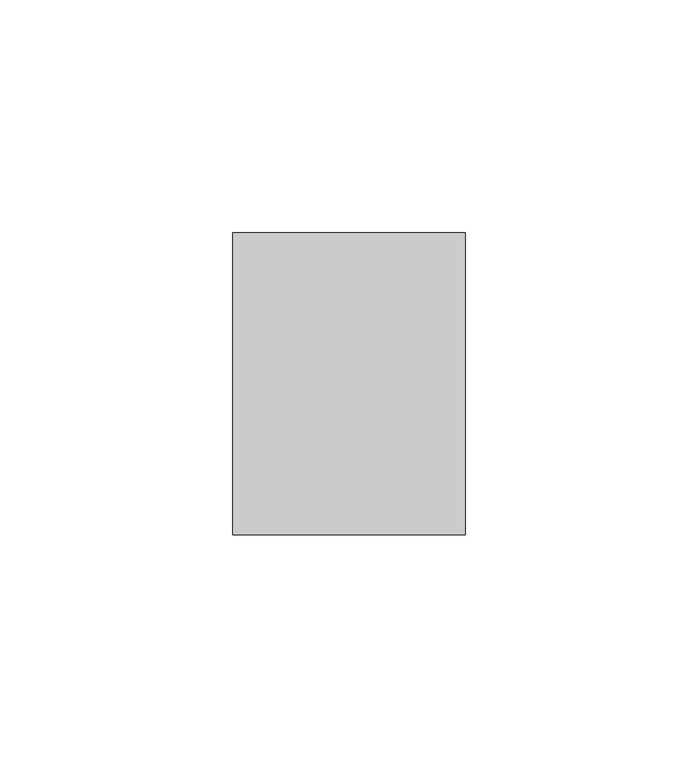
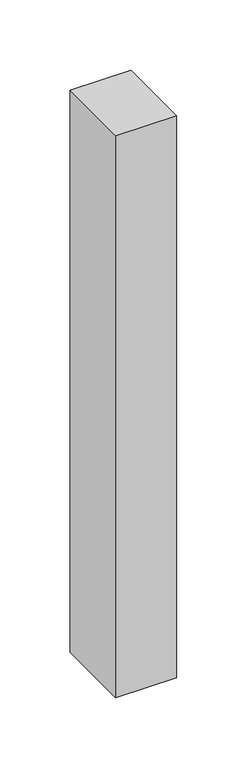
"""IFC4 building model written with IfcOpenShell, lengths in millimetres: member geometry, Прямоугольный импост : 50 мм x 65 мм."""

from ifc_helpers import new_model, si_unit, frame, origin, place, context, project, spatial, polyline, outline, extrude, source, transform, mapped, element, save


def member_3923b022(model_context):
    return source(origin(), model_context, "Body", "SweptSolid", [
        extrude(outline(polyline([(0.0, 32.5), (0.0, -32.5), (-50.0, -32.5), (-50.0, 32.5), (0.0, 32.5)])), frame((0.0, 0.0, -488.2361077), z_axis=(0.0, 0.0, 1.0), x_axis=(1.0, 0.0, 0.0)), (0.0, 0.0, 1.0), 488.2361077),
    ])


if __name__ == "__main__":
    model = new_model("IFC4")
    model_context = context("Model", 3, world=origin())
    ifc_project = project(units=[si_unit("LENGTHUNIT", "METRE", prefix="MILLI")], contexts=[model_context])
    site = spatial("IfcSite", under=ifc_project)
    building = spatial("IfcBuilding", under=site)
    placement = place(None, origin())
    member_shape = member_3923b022(model_context)
    element("IfcMember", 1, ObjectType="Прямоугольный импост : 50 мм x 65 мм", at=placement, inside=building, context=model_context, shape_type="MappedRepresentation", body=[
        mapped(member_shape, transform((0.0, 0.0, 0.0), x_axis=(1.0, 0.0, 0.0), y_axis=(0.0, 1.0, 0.0), z_axis=(0.0, 0.0, 1.0))),
    ])
    save(model, "model.ifc")
